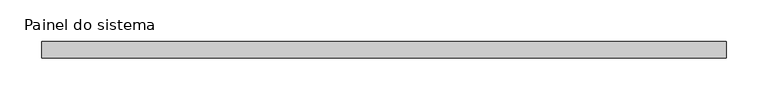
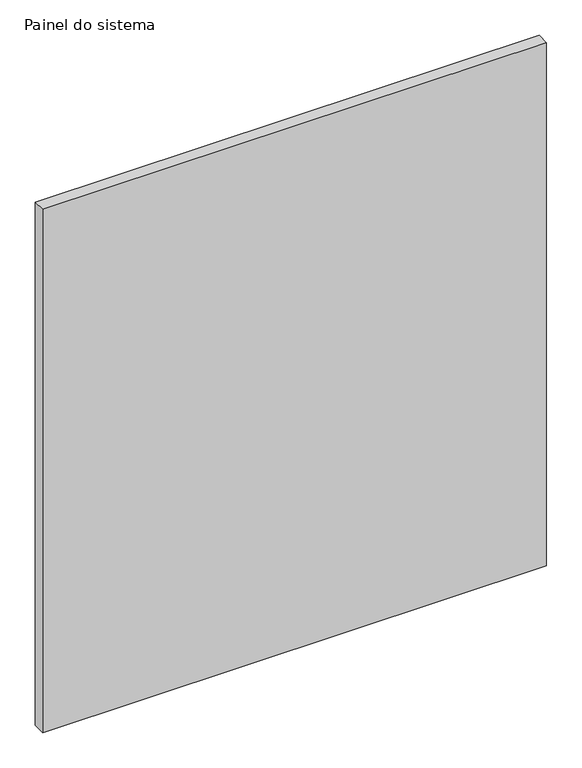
"""IFC4 building model written with IfcOpenShell, lengths in millimetres: plate geometry, Painel do sistema : Envidraçado."""

from ifc_helpers import new_model, si_unit, origin, origin_with_axes, place, context, project, spatial, polyline, outline, extrude, source, transform, mapped, element, save


def painel_do_sistema_57ceaf50(model_context):
    return source(origin(), model_context, "Body", "SweptSolid", [
        extrude(outline(polyline([(410.0, -10.0), (-410.0, -10.0), (-410.0, 10.0), (410.0, 10.0), (410.0, -10.0)])), origin_with_axes(), (0.0, 0.0, 1.0), 900.0),
    ])


if __name__ == "__main__":
    model = new_model("IFC4")
    model_context = context("Model", 3, world=origin())
    ifc_project = project(units=[si_unit("LENGTHUNIT", "METRE", prefix="MILLI")], contexts=[model_context])
    site = spatial("IfcSite", under=ifc_project)
    building = spatial("IfcBuilding", under=site)
    placement = place(None, origin())
    painel_do_sistema_shape = painel_do_sistema_57ceaf50(model_context)
    element("IfcPlate", 1, ObjectType="Painel do sistema : Envidraçado", at=placement, inside=building, context=model_context, shape_type="MappedRepresentation", body=[
        mapped(painel_do_sistema_shape, transform((0.0, 0.0, 0.0), x_axis=(1.0, 0.0, 0.0), y_axis=(0.0, 1.0, 0.0), z_axis=(0.0, 0.0, 1.0))),
    ])
    save(model, "model.ifc")
